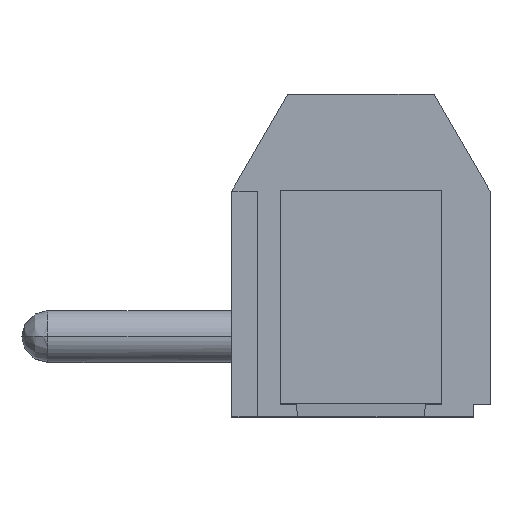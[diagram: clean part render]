
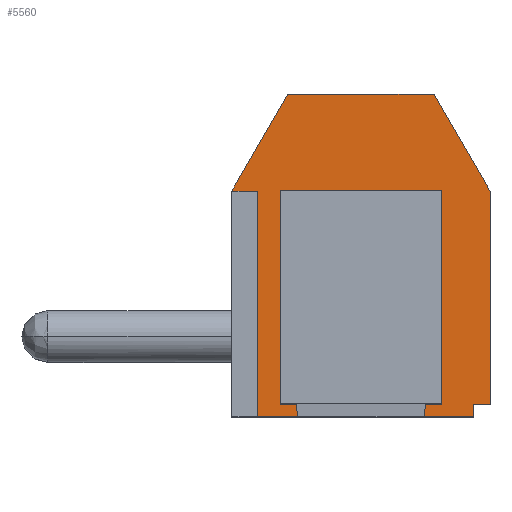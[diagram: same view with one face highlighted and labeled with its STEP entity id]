
A CAD part, top view. The second image highlights one B-rep face of the part: STEP entity #5560.
In plain terms, the highlighted planar face has unit normal (0, 0, 1).
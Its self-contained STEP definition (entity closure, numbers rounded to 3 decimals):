
#33 = CARTESIAN_POINT ( 'NONE',  ( 3.729, -4.696, -5. ) ) ;
#34 = DIRECTION ( 'NONE',  ( 1., 0., 0. ) ) ;
#35 = VECTOR ( 'NONE', #34, 1000. ) ;
#36 = CARTESIAN_POINT ( 'NONE',  ( -0.271, -4.696, -5. ) ) ;
#37 = LINE ( 'NONE', #36, #35 ) ;
#53 = DIRECTION ( 'NONE',  ( 1., 0., 0. ) ) ;
#54 = VECTOR ( 'NONE', #53, 1000. ) ;
#55 = CARTESIAN_POINT ( 'NONE',  ( -0.271, 1.904, -5. ) ) ;
#56 = LINE ( 'NONE', #55, #54 ) ;
#93 = DIRECTION ( 'NONE',  ( 0., -1., 0. ) ) ;
#94 = VECTOR ( 'NONE', #93, 1000. ) ;
#95 = CARTESIAN_POINT ( 'NONE',  ( 2.229, -0.096, -5. ) ) ;
#96 = LINE ( 'NONE', #95, #94 ) ;
#1878 = DIRECTION ( 'NONE',  ( 0., 1., 0. ) ) ;
#1879 = VECTOR ( 'NONE', #1878, 1000. ) ;
#1880 = CARTESIAN_POINT ( 'NONE',  ( 3.729, -0.096, -5. ) ) ;
#1881 = LINE ( 'NONE', #1880, #1879 ) ;
#2501 = DIRECTION ( 'NONE',  ( 1., 0., 0. ) ) ;
#2502 = VECTOR ( 'NONE', #2501, 1000. ) ;
#2503 = CARTESIAN_POINT ( 'NONE',  ( -0.271, 4.904, -5. ) ) ;
#2504 = LINE ( 'NONE', #2503, #2502 ) ;
#2535 = DIRECTION ( 'NONE',  ( 1., 0., 0. ) ) ;
#2536 = DIRECTION ( 'NONE',  ( 0., 0., 1. ) ) ;
#2537 = CARTESIAN_POINT ( 'NONE',  ( -4.271, -5.096, -5. ) ) ;
#2538 = AXIS2_PLACEMENT_3D ( 'NONE', #2537, #2536, #2535 ) ;
#2539 = PLANE ( 'NONE',  #2538 ) ;
#2540 = FACE_OUTER_BOUND ( 'NONE', #5540, .T. ) ;
#2541 = FACE_BOUND ( 'NONE', #5477, .T. ) ;
#2546 = CARTESIAN_POINT ( 'NONE',  ( -3.471, 1.904, -5. ) ) ;
#2547 = DIRECTION ( 'NONE',  ( 0., -1., 0. ) ) ;
#2548 = VECTOR ( 'NONE', #2547, 1000. ) ;
#2549 = CARTESIAN_POINT ( 'NONE',  ( -3.471, -0.096, -5. ) ) ;
#2550 = LINE ( 'NONE', #2549, #2548 ) ;
#2556 = DIRECTION ( 'NONE',  ( 1., 0., 0. ) ) ;
#2557 = VECTOR ( 'NONE', #2556, 1000. ) ;
#2558 = CARTESIAN_POINT ( 'NONE',  ( -3.871, 1.904, -5. ) ) ;
#2559 = LINE ( 'NONE', #2558, #2557 ) ;
#2560 = CARTESIAN_POINT ( 'NONE',  ( -4.271, 1.904, -5. ) ) ;
#2561 = DIRECTION ( 'NONE',  ( 0.5, 0.866, 0. ) ) ;
#2562 = VECTOR ( 'NONE', #2561, 1000. ) ;
#2563 = CARTESIAN_POINT ( 'NONE',  ( -3.405, 3.404, -5. ) ) ;
#2564 = LINE ( 'NONE', #2563, #2562 ) ;
#2565 = CARTESIAN_POINT ( 'NONE',  ( -2.539, 4.904, -5. ) ) ;
#3795 = EDGE_CURVE ( 'NONE', #3804, #4290, #6097, .T. ) ;
#3800 = EDGE_CURVE ( 'NONE', #4294, #3804, #6087, .T. ) ;
#3804 = VERTEX_POINT ( 'NONE', #6149 ) ;
#4126 = VERTEX_POINT ( 'NONE', #6738 ) ;
#4128 = VERTEX_POINT ( 'NONE', #6733 ) ;
#4131 = EDGE_CURVE ( 'NONE', #4128, #4126, #6730, .T. ) ;
#4290 = VERTEX_POINT ( 'NONE', #6997 ) ;
#4293 = VERTEX_POINT ( 'NONE', #6996 ) ;
#4294 = VERTEX_POINT ( 'NONE', #6995 ) ;
#4300 = VERTEX_POINT ( 'NONE', #6990 ) ;
#4301 = EDGE_CURVE ( 'NONE', #4293, #4303, #7053, .T. ) ;
#4303 = VERTEX_POINT ( 'NONE', #7049 ) ;
#4324 = EDGE_CURVE ( 'NONE', #4303, #4333, #7028, .T. ) ;
#4333 = VERTEX_POINT ( 'NONE', #7084 ) ;
#4353 = EDGE_CURVE ( 'NONE', #4333, #4354, #37, .T. ) ;
#4354 = VERTEX_POINT ( 'NONE', #33 ) ;
#4377 = EDGE_CURVE ( 'NONE', #4290, #4300, #56, .T. ) ;
#4386 = EDGE_CURVE ( 'NONE', #4300, #4294, #96, .T. ) ;
#5252 = EDGE_CURVE ( 'NONE', #4354, #4128, #1881, .T. ) ;
#5477 = EDGE_LOOP ( 'NONE', ( #5478, #5479, #5538, #5539 ) ) ;
#5478 = ORIENTED_EDGE ( 'NONE', *, *, #3800, .T. ) ;
#5479 = ORIENTED_EDGE ( 'NONE', *, *, #3795, .T. ) ;
#5528 = ORIENTED_EDGE ( 'NONE', *, *, #5556, .T. ) ;
#5529 = ORIENTED_EDGE ( 'NONE', *, *, #4301, .T. ) ;
#5530 = ORIENTED_EDGE ( 'NONE', *, *, #4324, .T. ) ;
#5531 = ORIENTED_EDGE ( 'NONE', *, *, #4353, .T. ) ;
#5538 = ORIENTED_EDGE ( 'NONE', *, *, #4377, .T. ) ;
#5539 = ORIENTED_EDGE ( 'NONE', *, *, #4386, .T. ) ;
#5540 = EDGE_LOOP ( 'NONE', ( #5541, #5542, #5543, #5546, #5549, #5528, #5529, #5530, #5531 ) ) ;
#5541 = ORIENTED_EDGE ( 'NONE', *, *, #5252, .T. ) ;
#5542 = ORIENTED_EDGE ( 'NONE', *, *, #4131, .T. ) ;
#5543 = ORIENTED_EDGE ( 'NONE', *, *, #5544, .F. ) ;
#5544 = EDGE_CURVE ( 'NONE', #5545, #4126, #2504, .T. ) ;
#5545 = VERTEX_POINT ( 'NONE', #2565 ) ;
#5546 = ORIENTED_EDGE ( 'NONE', *, *, #5547, .F. ) ;
#5547 = EDGE_CURVE ( 'NONE', #5548, #5545, #2564, .T. ) ;
#5548 = VERTEX_POINT ( 'NONE', #2560 ) ;
#5549 = ORIENTED_EDGE ( 'NONE', *, *, #5550, .T. ) ;
#5550 = EDGE_CURVE ( 'NONE', #5548, #5557, #2559, .T. ) ;
#5556 = EDGE_CURVE ( 'NONE', #5557, #4293, #2550, .T. ) ;
#5557 = VERTEX_POINT ( 'NONE', #2546 ) ;
#5560 = ADVANCED_FACE ( 'NONE', ( #2541, #2540 ), #2539, .T. ) ;
#6087 = LINE ( 'NONE', #6152, #6151 ) ;
#6094 = DIRECTION ( 'NONE',  ( 0., 1., 0. ) ) ;
#6095 = VECTOR ( 'NONE', #6094, 1000. ) ;
#6096 = CARTESIAN_POINT ( 'NONE',  ( -2.771, -0.096, -5. ) ) ;
#6097 = LINE ( 'NONE', #6096, #6095 ) ;
#6149 = CARTESIAN_POINT ( 'NONE',  ( -2.771, -4.696, -5. ) ) ;
#6150 = DIRECTION ( 'NONE',  ( -1., 0., 0. ) ) ;
#6151 = VECTOR ( 'NONE', #6150, 1000. ) ;
#6152 = CARTESIAN_POINT ( 'NONE',  ( -0.271, -4.696, -5. ) ) ;
#6730 = LINE ( 'NONE', #6789, #6788 ) ;
#6733 = CARTESIAN_POINT ( 'NONE',  ( 3.729, 1.904, -5. ) ) ;
#6738 = CARTESIAN_POINT ( 'NONE',  ( 1.997, 4.904, -5. ) ) ;
#6787 = DIRECTION ( 'NONE',  ( -0.5, 0.866, 0. ) ) ;
#6788 = VECTOR ( 'NONE', #6787, 1000. ) ;
#6789 = CARTESIAN_POINT ( 'NONE',  ( 3.729, 1.904, -5. ) ) ;
#6990 = CARTESIAN_POINT ( 'NONE',  ( 2.229, 1.904, -5. ) ) ;
#6995 = CARTESIAN_POINT ( 'NONE',  ( 2.229, -4.696, -5. ) ) ;
#6996 = CARTESIAN_POINT ( 'NONE',  ( -3.471, -5.096, -5. ) ) ;
#6997 = CARTESIAN_POINT ( 'NONE',  ( -2.771, 1.904, -5. ) ) ;
#7025 = DIRECTION ( 'NONE',  ( 0., 1., 0. ) ) ;
#7026 = VECTOR ( 'NONE', #7025, 1000. ) ;
#7027 = CARTESIAN_POINT ( 'NONE',  ( 3.229, -0.096, -5. ) ) ;
#7028 = LINE ( 'NONE', #7027, #7026 ) ;
#7049 = CARTESIAN_POINT ( 'NONE',  ( 3.229, -5.096, -5. ) ) ;
#7050 = DIRECTION ( 'NONE',  ( 1., 0., 0. ) ) ;
#7051 = VECTOR ( 'NONE', #7050, 1000. ) ;
#7052 = CARTESIAN_POINT ( 'NONE',  ( -0.271, -5.096, -5. ) ) ;
#7053 = LINE ( 'NONE', #7052, #7051 ) ;
#7084 = CARTESIAN_POINT ( 'NONE',  ( 3.229, -4.696, -5. ) ) ;
